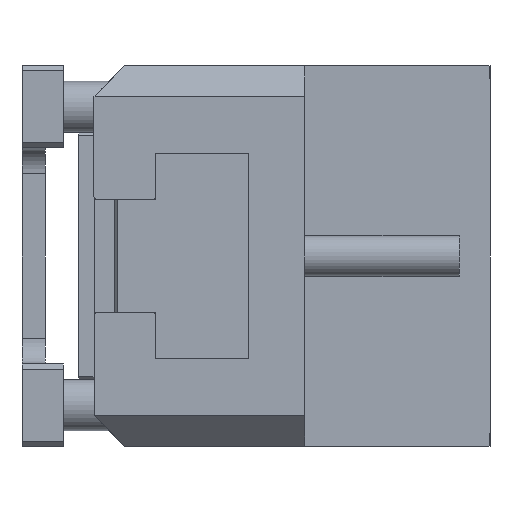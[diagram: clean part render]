
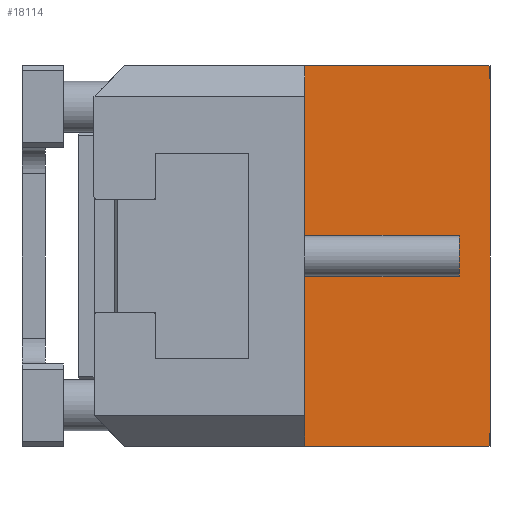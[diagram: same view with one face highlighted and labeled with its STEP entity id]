
A CAD part, left-side view. The second image highlights one B-rep face of the part: STEP entity #18114.
In plain terms, the highlighted planar face has unit normal (-1, 0, 0).
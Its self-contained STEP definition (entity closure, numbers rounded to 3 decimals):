
#1296 = EDGE_CURVE ( 'NONE', #6657, #29653, #7026, .T. ) ;
#1833 = CARTESIAN_POINT ( 'NONE',  ( -62.5, 36., 37. ) ) ;
#2009 = CARTESIAN_POINT ( 'NONE',  ( -62.5, 36., 37. ) ) ;
#2507 = CARTESIAN_POINT ( 'NONE',  ( -62.5, 36., 37. ) ) ;
#2809 = CARTESIAN_POINT ( 'NONE',  ( -62.5, 0., -37. ) ) ;
#3882 = CARTESIAN_POINT ( 'NONE',  ( -62.5, 36., -37. ) ) ;
#4974 = LINE ( 'NONE', #2507, #23315 ) ;
#5416 = ORIENTED_EDGE ( 'NONE', *, *, #37430, .T. ) ;
#5715 = DIRECTION ( 'NONE',  ( 1., 0., 0. ) ) ;
#6402 = DIRECTION ( 'NONE',  ( 0., 0., 1. ) ) ;
#6657 = VERTEX_POINT ( 'NONE', #28680 ) ;
#7026 = LINE ( 'NONE', #2009, #48587 ) ;
#7097 = VECTOR ( 'NONE', #7468, 1000. ) ;
#7468 = DIRECTION ( 'NONE',  ( 0., -1., 0. ) ) ;
#7590 = AXIS2_PLACEMENT_3D ( 'NONE', #1833, #5715, #33030 ) ;
#14872 = CARTESIAN_POINT ( 'NONE',  ( -62.5, 36., -37. ) ) ;
#15227 = DIRECTION ( 'NONE',  ( 0., 0., 1. ) ) ;
#17460 = LINE ( 'NONE', #3882, #7097 ) ;
#18114 = ADVANCED_FACE ( 'NONE', ( #31593 ), #25179, .F. ) ;
#19150 = CARTESIAN_POINT ( 'NONE',  ( -62.5, 0., 37. ) ) ;
#19166 = EDGE_CURVE ( 'NONE', #49765, #44499, #17460, .T. ) ;
#20804 = ORIENTED_EDGE ( 'NONE', *, *, #50458, .F. ) ;
#21505 = VECTOR ( 'NONE', #15227, 1000. ) ;
#21774 = DIRECTION ( 'NONE',  ( 0., -1., 0. ) ) ;
#23315 = VECTOR ( 'NONE', #6402, 1000. ) ;
#23595 = CARTESIAN_POINT ( 'NONE',  ( -62.5, 0., 37. ) ) ;
#25179 = PLANE ( 'NONE',  #7590 ) ;
#28680 = CARTESIAN_POINT ( 'NONE',  ( -62.5, 36., 37. ) ) ;
#29402 = ORIENTED_EDGE ( 'NONE', *, *, #1296, .F. ) ;
#29653 = VERTEX_POINT ( 'NONE', #23595 ) ;
#31593 = FACE_OUTER_BOUND ( 'NONE', #49603, .T. ) ;
#33030 = DIRECTION ( 'NONE',  ( 0., 0., -1. ) ) ;
#33107 = LINE ( 'NONE', #19150, #21505 ) ;
#37430 = EDGE_CURVE ( 'NONE', #44499, #29653, #33107, .T. ) ;
#41424 = ORIENTED_EDGE ( 'NONE', *, *, #19166, .T. ) ;
#44499 = VERTEX_POINT ( 'NONE', #2809 ) ;
#48587 = VECTOR ( 'NONE', #21774, 1000. ) ;
#49603 = EDGE_LOOP ( 'NONE', ( #5416, #29402, #20804, #41424 ) ) ;
#49765 = VERTEX_POINT ( 'NONE', #14872 ) ;
#50458 = EDGE_CURVE ( 'NONE', #49765, #6657, #4974, .T. ) ;
